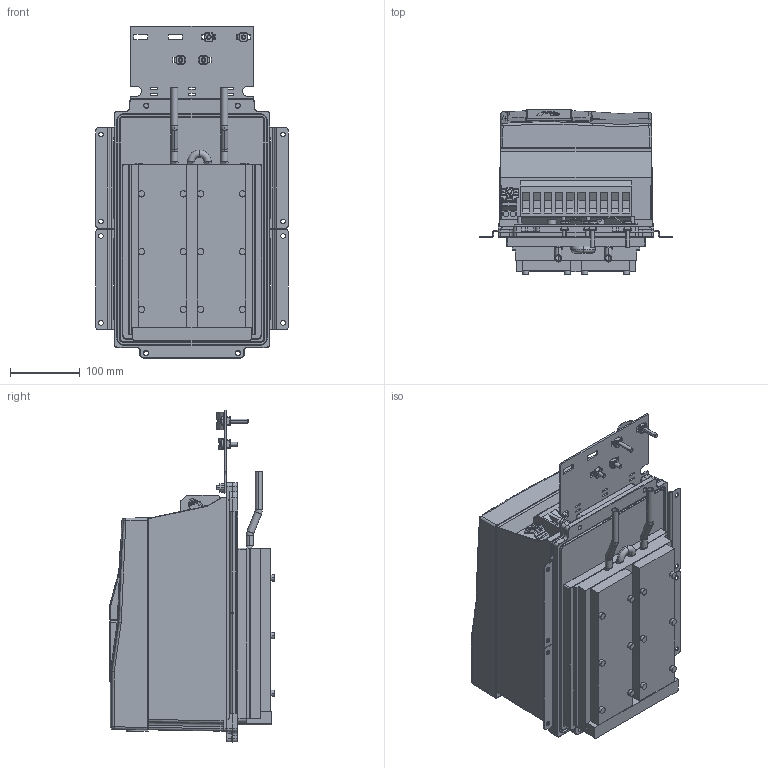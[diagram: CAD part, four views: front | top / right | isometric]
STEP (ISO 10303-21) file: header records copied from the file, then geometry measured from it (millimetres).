
FILE_DESCRIPTION (( 'STEP AP214' ), '1' );
FILE_NAME ('F6-4TW5-P151.STEP', '2020-12-10T07:54:27', ( '' ), ( '' ), 'SwSTEP 2.0', 'SolidWorks 2019', '' );
FILE_SCHEMA (( 'AUTOMOTIVE_DESIGN' ));
Length unit declared in the file: millimetre
Products named in the file (13): 10045826_000_Basis Leistungsteil + Zubeh”r TW5 (Kundenmodell); 10061645_000; 10058448_000; 10059765_000; 10061644_000_Deckel (Kundenmodell); F6-4TW5-P151; 10059762_000_Kundenmodell mit Geberbuchsen; 10044453_000_Schirmung (Kundenmodell); 10063070_000; 10032600_000_Kundenmodell; 10051076_000_Kundenmodell; 10061789_000; 10059764_000_Blindabdeckung (Kundenmodell)
Assembly tree (12 placements, depth 4):
  F6-4TW5-P151
    10045826_000_Basis Leistungsteil + Zubeh”r TW5 (Kundenmodell)
      10061789_000
    10032600_000_Kundenmodell
      10061644_000_Deckel (Kundenmodell)
        10061645_000
      10058448_000
    10051076_000_Kundenmodell
      10059764_000_Blindabdeckung (Kundenmodell)
        10059765_000
      10059762_000_Kundenmodell mit Geberbuchsen
    10044453_000_Schirmung (Kundenmodell)
      10063070_000
Bounding box: 277 x 237.2 x 477.5 mm (x, y, z)
Volume: 14626485.7 mm3; surface area: 932620.3 mm2
Topology: 17 solids, 36 shells, 3522 faces, 9449 edges, 6026 vertices
Faces by surface type: plane 1575, cylinder 1016, bspline 565, torus 186, cone 132, sphere 48
Entity records: 134007 total; most frequent: CARTESIAN_POINT 48676, ORIENTED_EDGE 18780, DIRECTION 16228, EDGE_CURVE 9390, VERTEX_POINT 6024, AXIS2_PLACEMENT_3D 5501, LINE 5226, VECTOR 5226
